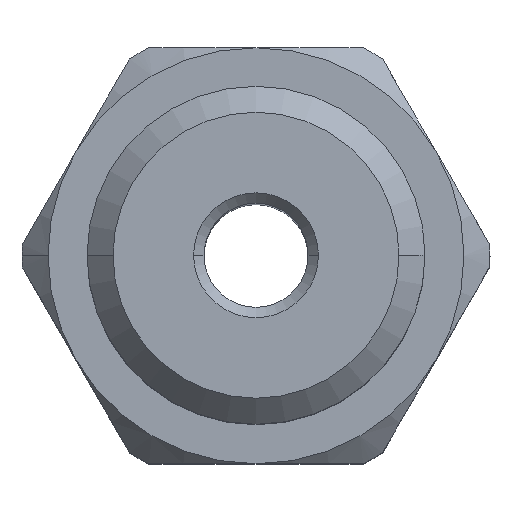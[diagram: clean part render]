
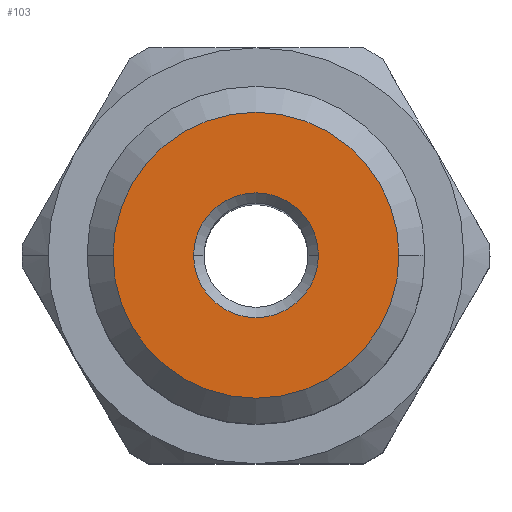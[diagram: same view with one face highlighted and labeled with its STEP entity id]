
A CAD part, top view. The second image highlights one B-rep face of the part: STEP entity #103.
In plain terms, the highlighted planar face has unit normal (0, 0, 1).
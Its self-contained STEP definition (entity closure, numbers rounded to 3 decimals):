
#7 = AXIS2_PLACEMENT_3D ( 'NONE', #1993, #2322, #2019 ) ;
#103 = ADVANCED_FACE ( 'NONE', ( #2175, #2451 ), #2346, .F. ) ;
#125 = VERTEX_POINT ( 'NONE', #2116 ) ;
#163 = CIRCLE ( 'NONE', #1431, 1.2 ) ;
#222 = CARTESIAN_POINT ( 'NONE',  ( 0., 0., 15.5 ) ) ;
#263 = CARTESIAN_POINT ( 'NONE',  ( 1.2, 0., 15.5 ) ) ;
#351 = EDGE_CURVE ( 'NONE', #125, #533, #2077, .T. ) ;
#370 = DIRECTION ( 'NONE',  ( -1., 0., 0. ) ) ;
#526 = ORIENTED_EDGE ( 'NONE', *, *, #1583, .T. ) ;
#533 = VERTEX_POINT ( 'NONE', #1811 ) ;
#599 = ORIENTED_EDGE ( 'NONE', *, *, #351, .T. ) ;
#605 = ORIENTED_EDGE ( 'NONE', *, *, #2113, .T. ) ;
#615 = CARTESIAN_POINT ( 'NONE',  ( -1.2, 0., 15.5 ) ) ;
#617 = CARTESIAN_POINT ( 'NONE',  ( 0., 0., 15.5 ) ) ;
#642 = ORIENTED_EDGE ( 'NONE', *, *, #1199, .T. ) ;
#663 = CIRCLE ( 'NONE', #1816, 2.75 ) ;
#737 = CARTESIAN_POINT ( 'NONE',  ( 0., 0., 15.5 ) ) ;
#745 = DIRECTION ( 'NONE',  ( 0., 0., 1. ) ) ;
#768 = DIRECTION ( 'NONE',  ( -1., 0., 0. ) ) ;
#772 = DIRECTION ( 'NONE',  ( 0., 0., 1. ) ) ;
#842 = AXIS2_PLACEMENT_3D ( 'NONE', #222, #1291, #370 ) ;
#922 = DIRECTION ( 'NONE',  ( -1., 0., 0. ) ) ;
#1013 = CIRCLE ( 'NONE', #842, 1.2 ) ;
#1199 = EDGE_CURVE ( 'NONE', #2025, #1644, #1013, .T. ) ;
#1291 = DIRECTION ( 'NONE',  ( 0., 0., -1. ) ) ;
#1350 = EDGE_LOOP ( 'NONE', ( #599, #526 ) ) ;
#1410 = CARTESIAN_POINT ( 'NONE',  ( 0., 0., 15.5 ) ) ;
#1431 = AXIS2_PLACEMENT_3D ( 'NONE', #1410, #1645, #2202 ) ;
#1583 = EDGE_CURVE ( 'NONE', #533, #125, #663, .T. ) ;
#1644 = VERTEX_POINT ( 'NONE', #615 ) ;
#1645 = DIRECTION ( 'NONE',  ( 0., 0., -1. ) ) ;
#1811 = CARTESIAN_POINT ( 'NONE',  ( 2.75, 0., 15.5 ) ) ;
#1816 = AXIS2_PLACEMENT_3D ( 'NONE', #617, #772, #922 ) ;
#1993 = CARTESIAN_POINT ( 'NONE',  ( 0., 0., 15.5 ) ) ;
#2019 = DIRECTION ( 'NONE',  ( -1., 0., 0. ) ) ;
#2025 = VERTEX_POINT ( 'NONE', #263 ) ;
#2077 = CIRCLE ( 'NONE', #2386, 2.75 ) ;
#2113 = EDGE_CURVE ( 'NONE', #1644, #2025, #163, .T. ) ;
#2116 = CARTESIAN_POINT ( 'NONE',  ( -2.75, 0., 15.5 ) ) ;
#2175 = FACE_BOUND ( 'NONE', #2482, .T. ) ;
#2202 = DIRECTION ( 'NONE',  ( -1., 0., 0. ) ) ;
#2322 = DIRECTION ( 'NONE',  ( 0., 0., -1. ) ) ;
#2346 = PLANE ( 'NONE',  #7 ) ;
#2386 = AXIS2_PLACEMENT_3D ( 'NONE', #737, #745, #768 ) ;
#2451 = FACE_OUTER_BOUND ( 'NONE', #1350, .T. ) ;
#2482 = EDGE_LOOP ( 'NONE', ( #642, #605 ) ) ;
